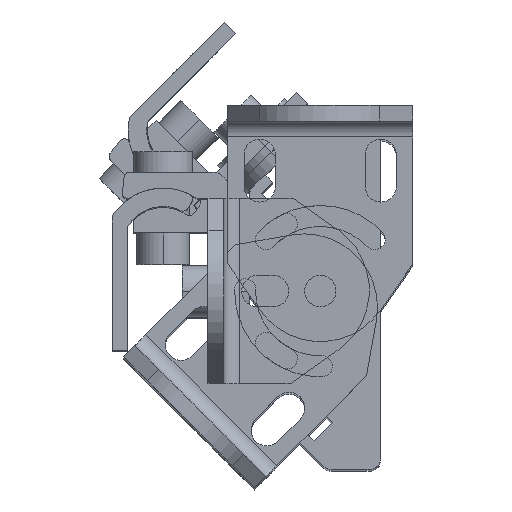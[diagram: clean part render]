
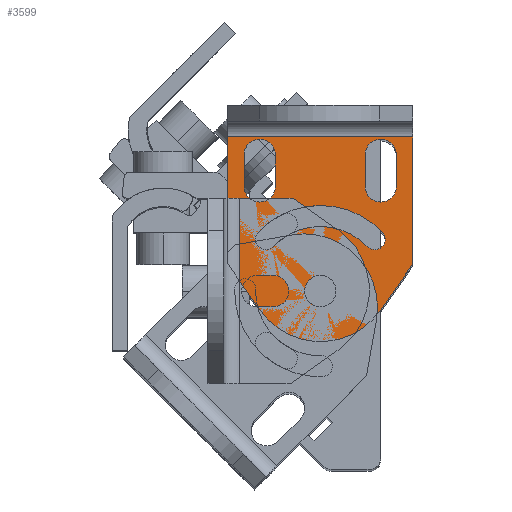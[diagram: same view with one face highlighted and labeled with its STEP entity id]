
A CAD part, top view. The second image highlights one B-rep face of the part: STEP entity #3599.
In plain terms, the highlighted planar face has unit normal (0, 0, 1) as drawn and (0, 0, -1) by its records, which use the part's own axes.
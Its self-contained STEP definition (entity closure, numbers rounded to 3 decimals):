
#3101=CARTESIAN_POINT('',(3.,22.278,-1.5));
#3102=VERTEX_POINT('',#3101);
#3111=CARTESIAN_POINT('',(-3.,22.278,-1.5));
#3112=VERTEX_POINT('',#3111);
#3113=CARTESIAN_POINT('',(0.,22.278,-1.5));
#3114=DIRECTION('',(0.0,0.0,1.0));
#3115=DIRECTION('',(1.0,0.0,0.0));
#3116=AXIS2_PLACEMENT_3D('',#3113,#3114,#3115);
#3117=CIRCLE('',#3116,3.);
#3118=EDGE_CURVE('',#3112,#3102,#3117,.T.);
#3153=CARTESIAN_POINT('',(-17.677,-7.132,-1.5));
#3154=VERTEX_POINT('',#3153);
#3162=CARTESIAN_POINT('',(17.677,-7.132,-1.5));
#3163=VERTEX_POINT('',#3162);
#3164=CARTESIAN_POINT('',(17.677,-7.132,-1.5));
#3165=DIRECTION('',(-1.0,0.0,0.0));
#3166=VECTOR('',#3165,35.354);
#3167=LINE('',#3164,#3166);
#3168=EDGE_CURVE('',#3163,#3154,#3167,.T.);
#3364=CARTESIAN_POINT('',(17.677,17.082,-1.5));
#3365=VERTEX_POINT('',#3364);
#3366=CARTESIAN_POINT('',(17.677,17.082,-1.5));
#3367=DIRECTION('',(0.0,-1.0,0.0));
#3368=VECTOR('',#3367,24.214);
#3369=LINE('',#3366,#3368);
#3370=EDGE_CURVE('',#3365,#3163,#3369,.T.);
#3439=CARTESIAN_POINT('',(-0.043,-2.357,-1.5));
#3440=DIRECTION('',(0.0,0.0,1.0));
#3441=DIRECTION('',(1.0,0.0,0.0));
#3442=AXIS2_PLACEMENT_3D('',#3439,#3440,#3441);
#3443=PLANE('',#3442);
#3444=ORIENTED_EDGE('',*,*,#3168,.T.);
#3445=CARTESIAN_POINT('',(-17.677,17.082,-1.5));
#3446=VERTEX_POINT('',#3445);
#3447=CARTESIAN_POINT('',(-17.677,-7.132,-1.5));
#3448=DIRECTION('',(0.0,1.0,0.0));
#3449=VECTOR('',#3448,24.214);
#3450=LINE('',#3447,#3449);
#3451=EDGE_CURVE('',#3154,#3446,#3450,.T.);
#3452=ORIENTED_EDGE('',*,*,#3451,.T.);
#3453=CARTESIAN_POINT('',(-11.468,25.949,-1.5));
#3454=VERTEX_POINT('',#3453);
#3455=CARTESIAN_POINT('',(-17.677,17.082,-1.5));
#3456=DIRECTION('',(0.574,0.819,0.0));
#3457=VECTOR('',#3456,10.825);
#3458=LINE('',#3455,#3457);
#3459=EDGE_CURVE('',#3446,#3454,#3458,.T.);
#3460=ORIENTED_EDGE('',*,*,#3459,.T.);
#3461=CARTESIAN_POINT('',(11.468,25.949,-1.5));
#3462=VERTEX_POINT('',#3461);
#3463=CARTESIAN_POINT('',(0.,17.919,-1.5));
#3464=DIRECTION('',(0.0,0.0,-1.0));
#3465=DIRECTION('',(1.0,0.0,0.0));
#3466=AXIS2_PLACEMENT_3D('',#3463,#3464,#3465);
#3467=CIRCLE('',#3466,14.);
#3468=EDGE_CURVE('',#3454,#3462,#3467,.T.);
#3469=ORIENTED_EDGE('',*,*,#3468,.T.);
#3470=CARTESIAN_POINT('',(11.468,25.949,-1.5));
#3471=DIRECTION('',(0.574,-0.819,0.0));
#3472=VECTOR('',#3471,10.825);
#3473=LINE('',#3470,#3472);
#3474=EDGE_CURVE('',#3462,#3365,#3473,.T.);
#3475=ORIENTED_EDGE('',*,*,#3474,.T.);
#3476=ORIENTED_EDGE('',*,*,#3370,.T.);
#3477=EDGE_LOOP('',(#3444,#3452,#3460,#3469,#3475,#3476));
#3478=FACE_OUTER_BOUND('',#3477,.T.);
#3479=CARTESIAN_POINT('',(-8.55,2.278,-1.5));
#3480=VERTEX_POINT('',#3479);
#3481=CARTESIAN_POINT('',(-14.55,2.278,-1.5));
#3482=VERTEX_POINT('',#3481);
#3483=CARTESIAN_POINT('',(-11.55,2.278,-1.5));
#3484=DIRECTION('',(0.0,0.0,1.0));
#3485=DIRECTION('',(1.0,0.0,0.0));
#3486=AXIS2_PLACEMENT_3D('',#3483,#3484,#3485);
#3487=CIRCLE('',#3486,3.);
#3488=EDGE_CURVE('',#3480,#3482,#3487,.T.);
#3489=ORIENTED_EDGE('',*,*,#3488,.T.);
#3490=CARTESIAN_POINT('',(-14.55,-3.722,-1.5));
#3491=VERTEX_POINT('',#3490);
#3492=CARTESIAN_POINT('',(-14.55,2.278,-1.5));
#3493=DIRECTION('',(0.0,-1.0,0.0));
#3494=VECTOR('',#3493,6.);
#3495=LINE('',#3492,#3494);
#3496=EDGE_CURVE('',#3482,#3491,#3495,.T.);
#3497=ORIENTED_EDGE('',*,*,#3496,.T.);
#3498=CARTESIAN_POINT('',(-8.55,-3.722,-1.5));
#3499=VERTEX_POINT('',#3498);
#3500=CARTESIAN_POINT('',(-11.55,-3.722,-1.5));
#3501=DIRECTION('',(0.0,0.0,1.0));
#3502=DIRECTION('',(1.0,0.0,0.0));
#3503=AXIS2_PLACEMENT_3D('',#3500,#3501,#3502);
#3504=CIRCLE('',#3503,3.);
#3505=EDGE_CURVE('',#3491,#3499,#3504,.T.);
#3506=ORIENTED_EDGE('',*,*,#3505,.T.);
#3507=CARTESIAN_POINT('',(-8.55,-3.722,-1.5));
#3508=DIRECTION('',(0.0,1.0,0.0));
#3509=VECTOR('',#3508,6.);
#3510=LINE('',#3507,#3509);
#3511=EDGE_CURVE('',#3499,#3480,#3510,.T.);
#3512=ORIENTED_EDGE('',*,*,#3511,.T.);
#3513=EDGE_LOOP('',(#3489,#3497,#3506,#3512));
#3514=FACE_BOUND('',#3513,.T.);
#3515=CARTESIAN_POINT('',(8.936,13.767,-1.5));
#3516=VERTEX_POINT('',#3515);
#3517=CARTESIAN_POINT('',(-8.929,13.76,-1.5));
#3518=VERTEX_POINT('',#3517);
#3519=CARTESIAN_POINT('',(0.,22.278,-1.5));
#3520=DIRECTION('',(0.0,0.0,-1.0));
#3521=DIRECTION('',(1.0,0.0,0.0));
#3522=AXIS2_PLACEMENT_3D('',#3519,#3520,#3521);
#3523=CIRCLE('',#3522,12.341);
#3524=EDGE_CURVE('',#3516,#3518,#3523,.T.);
#3525=ORIENTED_EDGE('',*,*,#3524,.T.);
#3526=CARTESIAN_POINT('',(-11.824,10.999,-1.5));
#3527=VERTEX_POINT('',#3526);
#3528=CARTESIAN_POINT('',(-10.377,12.379,-1.5));
#3529=DIRECTION('',(0.0,0.0,1.0));
#3530=DIRECTION('',(1.0,0.0,0.0));
#3531=AXIS2_PLACEMENT_3D('',#3528,#3529,#3530);
#3532=CIRCLE('',#3531,2.);
#3533=EDGE_CURVE('',#3518,#3527,#3532,.T.);
#3534=ORIENTED_EDGE('',*,*,#3533,.T.);
#3535=CARTESIAN_POINT('',(11.832,11.008,-1.5));
#3536=VERTEX_POINT('',#3535);
#3537=CARTESIAN_POINT('',(0.,22.278,-1.5));
#3538=DIRECTION('',(0.0,0.0,1.0));
#3539=DIRECTION('',(1.0,0.0,0.0));
#3540=AXIS2_PLACEMENT_3D('',#3537,#3538,#3539);
#3541=CIRCLE('',#3540,16.341);
#3542=EDGE_CURVE('',#3527,#3536,#3541,.T.);
#3543=ORIENTED_EDGE('',*,*,#3542,.T.);
#3544=CARTESIAN_POINT('',(10.384,12.387,-1.5));
#3545=DIRECTION('',(0.0,0.0,1.0));
#3546=DIRECTION('',(1.0,0.0,0.0));
#3547=AXIS2_PLACEMENT_3D('',#3544,#3545,#3546);
#3548=CIRCLE('',#3547,2.);
#3549=EDGE_CURVE('',#3536,#3516,#3548,.T.);
#3550=ORIENTED_EDGE('',*,*,#3549,.T.);
#3551=EDGE_LOOP('',(#3525,#3534,#3543,#3550));
#3552=FACE_BOUND('',#3551,.T.);
#3553=CARTESIAN_POINT('',(8.55,-3.722,-1.5));
#3554=VERTEX_POINT('',#3553);
#3555=CARTESIAN_POINT('',(14.55,-3.722,-1.5));
#3556=VERTEX_POINT('',#3555);
#3557=CARTESIAN_POINT('',(11.55,-3.722,-1.5));
#3558=DIRECTION('',(0.0,0.0,1.0));
#3559=DIRECTION('',(1.0,0.0,0.0));
#3560=AXIS2_PLACEMENT_3D('',#3557,#3558,#3559);
#3561=CIRCLE('',#3560,3.);
#3562=EDGE_CURVE('',#3554,#3556,#3561,.T.);
#3563=ORIENTED_EDGE('',*,*,#3562,.T.);
#3564=CARTESIAN_POINT('',(14.55,2.278,-1.5));
#3565=VERTEX_POINT('',#3564);
#3566=CARTESIAN_POINT('',(14.55,-3.722,-1.5));
#3567=DIRECTION('',(0.0,1.0,0.0));
#3568=VECTOR('',#3567,6.);
#3569=LINE('',#3566,#3568);
#3570=EDGE_CURVE('',#3556,#3565,#3569,.T.);
#3571=ORIENTED_EDGE('',*,*,#3570,.T.);
#3572=CARTESIAN_POINT('',(8.55,2.278,-1.5));
#3573=VERTEX_POINT('',#3572);
#3574=CARTESIAN_POINT('',(11.55,2.278,-1.5));
#3575=DIRECTION('',(0.0,0.0,1.0));
#3576=DIRECTION('',(1.0,0.0,0.0));
#3577=AXIS2_PLACEMENT_3D('',#3574,#3575,#3576);
#3578=CIRCLE('',#3577,3.);
#3579=EDGE_CURVE('',#3565,#3573,#3578,.T.);
#3580=ORIENTED_EDGE('',*,*,#3579,.T.);
#3581=CARTESIAN_POINT('',(8.55,2.278,-1.5));
#3582=DIRECTION('',(0.0,-1.0,0.0));
#3583=VECTOR('',#3582,6.);
#3584=LINE('',#3581,#3583);
#3585=EDGE_CURVE('',#3573,#3554,#3584,.T.);
#3586=ORIENTED_EDGE('',*,*,#3585,.T.);
#3587=EDGE_LOOP('',(#3563,#3571,#3580,#3586));
#3588=FACE_BOUND('',#3587,.T.);
#3589=CARTESIAN_POINT('',(0.,22.278,-1.5));
#3590=DIRECTION('',(0.0,0.0,1.0));
#3591=DIRECTION('',(1.0,0.0,0.0));
#3592=AXIS2_PLACEMENT_3D('',#3589,#3590,#3591);
#3593=CIRCLE('',#3592,3.);
#3594=EDGE_CURVE('',#3102,#3112,#3593,.T.);
#3595=ORIENTED_EDGE('',*,*,#3594,.T.);
#3596=ORIENTED_EDGE('',*,*,#3118,.T.);
#3597=EDGE_LOOP('',(#3595,#3596));
#3598=FACE_BOUND('',#3597,.T.);
#3599=ADVANCED_FACE('',(#3478,#3514,#3552,#3588,#3598),#3443,.F.);
